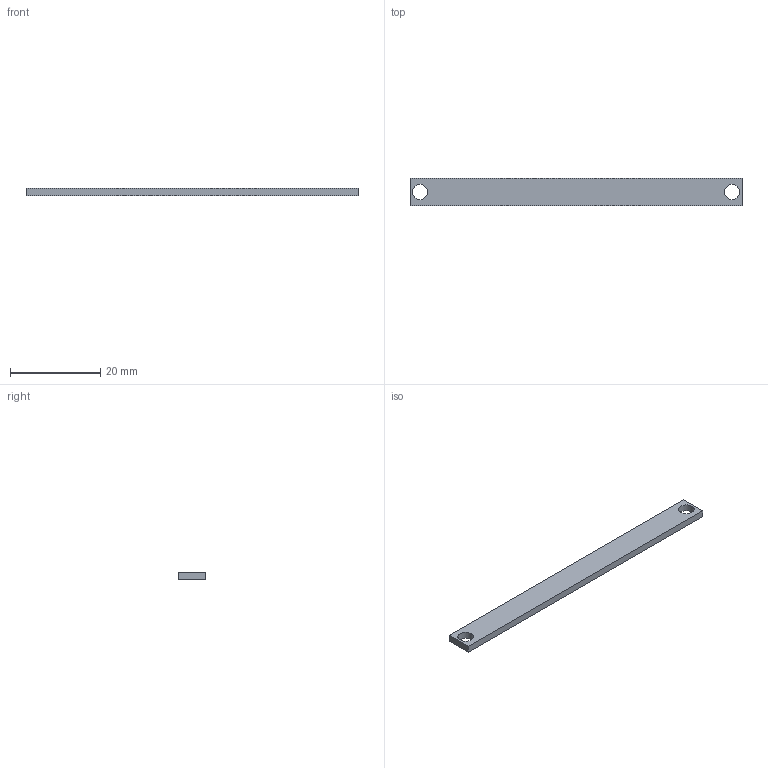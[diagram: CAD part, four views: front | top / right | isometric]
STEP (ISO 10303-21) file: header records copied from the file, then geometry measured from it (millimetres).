
FILE_DESCRIPTION(('FreeCAD Model'),'2;1');
FILE_NAME('Open CASCADE Shape Model','2026-11-20T08:25:38',('FreeCAD'),( 'FreeCAD'),'Open CASCADE STEP processor 7.8','FreeCAD','Unknown');
FILE_SCHEMA(('AUTOMOTIVE_DESIGN { 1 0 10303 214 1 1 1 1 }'));
Length unit declared in the file: millimetre
Products named in the file (1): Open CASCADE STEP translator 7.8 55
Bounding box: 73.6 x 6 x 1.6 mm (x, y, z)
Volume: 677.5 mm3; surface area: 1135.8 mm2
Topology: 1 solids, 1 shells, 8 faces, 18 edges, 12 vertices
Faces by surface type: plane 6, cylinder 2
Full cylindrical faces by diameter (mm): 3.4 x2
Entity records: 244 total; most frequent: DIRECTION 40, CARTESIAN_POINT 39, ORIENTED_EDGE 36, EDGE_CURVE 18, LINE 14, VECTOR 14, AXIS2_PLACEMENT_3D 13, FACE_BOUND 12
